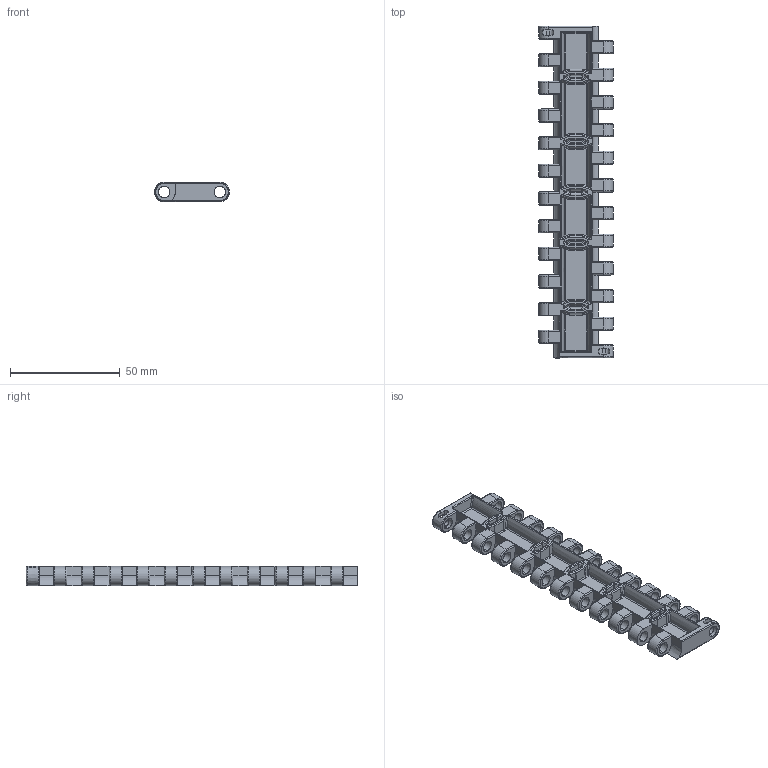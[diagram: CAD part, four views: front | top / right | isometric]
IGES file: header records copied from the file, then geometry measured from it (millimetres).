
Start section: SolidWorks IGES file using analytic representation for surfaces
Global section: file name: C:\Documents and Settings\URETIM3\Desktop\yeni katalog tolgay\925 G02 K06.IGS; native system: SolidWorks 2006 by SolidWorks Corporation; preprocessor: SolidWorks 2006 by SolidWorks Corporation; author: URETIM3; date: 061031.144221; units: millimetre
Bounding box: 34.2 x 151.5 x 8.8 mm (x, y, z)
Surface area: 17156.6 mm2 (no closed solid volume)
Topology: 0 solids, 0 shells, 779 faces, 7823 edges, 7765 vertices
Faces by surface type: revolution 441, bspline 338
